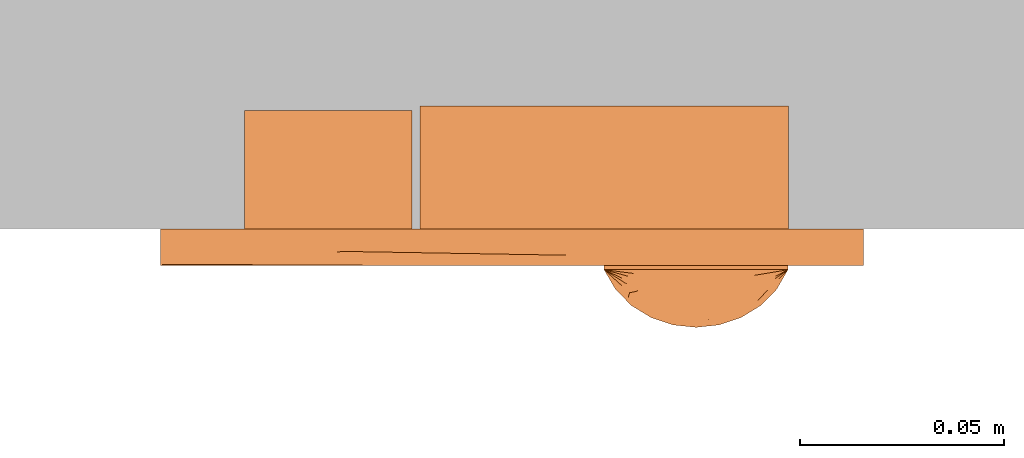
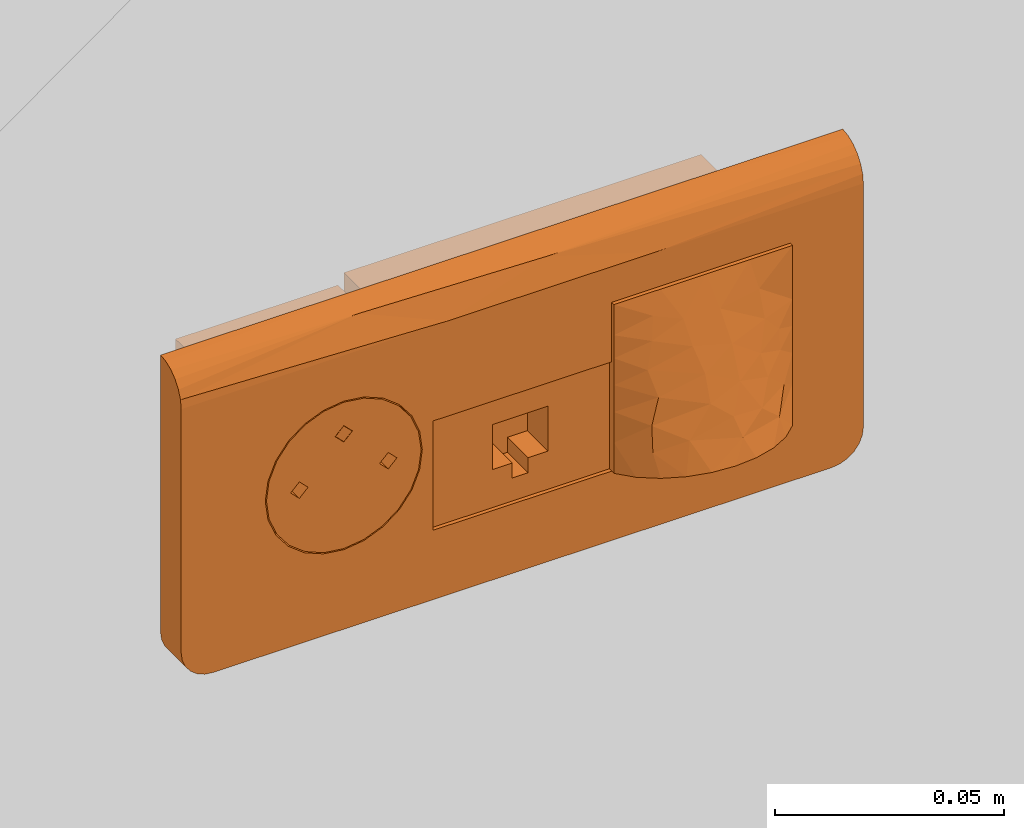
# One storey, part 159 of 197: 1 proxy.
"""IFC2X3 building model written with IfcOpenShell, lengths in metres."""

from ifc_helpers import new_model, entity, si_unit, converted_unit, direction, frame, origin, place, context, subcontext, project, spatial, faceted_brep, source, transform, mapped, material, material_list, type_object, type_shapes, element, save


model = new_model("IFC2X3")

# Units and contexts
model_context = context("Model", 3, precision=1e-05, world=origin(), true_north=direction((6.123031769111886e-17, 1.0)))
body_context = subcontext(model_context, "Body", "Model", "MODEL_VIEW")
ifc_project = project(units=[si_unit("LENGTHUNIT", "METRE"), converted_unit("PLANEANGLEUNIT", "DEGREE", entity("IfcPlaneAngleMeasure", 0.017453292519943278), si_unit("PLANEANGLEUNIT", "RADIAN"), dimensions=[0, 0, 0, 0, 0, 0, 0]), si_unit("AREAUNIT", "SQUARE_METRE")], contexts=[model_context])

# Site, building, storey
site_placement = place(None, origin())
site = spatial("IfcSite", under=ifc_project, at=site_placement, Name="Default", CompositionType="ELEMENT")
building_placement = place(site_placement, origin())
building = spatial("IfcBuilding", under=site, at=building_placement, CompositionType="ELEMENT")
storey_placement = place(building_placement, origin())
storey = spatial("IfcBuildingStorey", under=building, at=storey_placement, Name="Niveau 0", CompositionType="ELEMENT", Elevation=0.0)

# Proxy
ifc_material_1 = material(Name="<Unnamed>")
ifc_material_2 = material(Name="BETCE-PCN-BLANC")
ifc_material_3 = material(Name="BETCE-ENJOLIVEUR PC-BLANC")
ifc_material_4 = material(Name="BETCE-ETIQUETTE RJ-BLEU")
ifc_material_5 = material(Name="BETCE-PCO-ROUGE")
ifc_material_list = material_list([ifc_material_1, ifc_material_2, ifc_material_3, ifc_material_4, ifc_material_5])
building_element_proxy_type = type_object("IfcBuildingElementProxyType", Name="Poste travail encastré 1x3 modules-1RJ+HDMI_USB sur sortie cable:1PCO+1RJ+1HDMI+1USB", PredefinedType="NOTDEFINED", material=ifc_material_list)
shared_shape = source(origin(), body_context, "Body", "Brep", [
    faceted_brep([(0.06772872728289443, -0.004999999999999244, 0.022499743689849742), (0.02264533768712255, -0.004999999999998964, 0.02249974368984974), (0.02264533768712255, -0.004999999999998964, -0.02249313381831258), (0.06772872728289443, -0.004999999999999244, -0.02249313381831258), (0.06772872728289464, 0.030000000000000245, 0.022499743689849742), (0.06772872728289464, 0.030000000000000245, -0.02249313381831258), (0.022645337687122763, 0.030000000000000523, -0.02249313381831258), (0.022645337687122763, 0.030000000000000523, 0.022499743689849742)], [[[0, 1, 2, 3]], [[4, 5, 6, 7]], [[3, 5, 4, 0]], [[2, 6, 5, 3]], [[1, 7, 6, 2]], [[0, 4, 7, 1]]]),
    faceted_brep([(0.049145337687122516, -0.009999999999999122, -0.022500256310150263), (0.04914533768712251, -0.004999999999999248, -0.022500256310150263), (0.06764533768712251, -0.004999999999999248, -0.022500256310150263), (0.06764533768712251, -0.009999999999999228, -0.022500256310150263), (0.041145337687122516, -0.009999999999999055, -0.022500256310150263), (0.022645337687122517, -0.009999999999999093, -0.022500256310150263), (0.022645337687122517, -0.004999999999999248, -0.022500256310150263), (0.04114533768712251, -0.004999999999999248, -0.022500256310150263), (0.06764533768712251, -0.009999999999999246, 0.022499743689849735), (0.06764533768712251, -0.004999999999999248, 0.022499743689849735), (0.022645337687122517, -0.0049999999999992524, 0.022499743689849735), (0.022645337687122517, -0.009999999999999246, 0.022499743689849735), (0.034313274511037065, -0.009999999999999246, 0.022499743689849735), (0.04598121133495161, -0.009999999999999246, 0.022499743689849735), (0.05681327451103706, -0.009999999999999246, 0.022499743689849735), (0.06764533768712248, -0.009999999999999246, 0.015338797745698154), (0.06764533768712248, -0.009999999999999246, 0.008177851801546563), (0.06764533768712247, -0.009999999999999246, 0.0010169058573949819), (0.06764533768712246, -0.009999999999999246, -0.006144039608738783), (0.06764533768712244, -0.009999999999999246, -0.014322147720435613), (0.04819005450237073, -0.022144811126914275, -0.014443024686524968), (0.05455437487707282, -0.019458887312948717, -0.010516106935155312), (0.0467015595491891, -0.020564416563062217, -0.009313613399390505), (0.03952154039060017, -0.023519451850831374, -0.019965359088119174), (0.03592283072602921, -0.02006812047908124, -0.012321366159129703), (0.034168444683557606, -0.021734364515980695, -0.020300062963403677), (0.058894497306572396, -0.013105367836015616, 0.007924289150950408), (0.047833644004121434, -0.012704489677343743, 0.014266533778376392), (0.049364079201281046, -0.015324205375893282, 0.00598729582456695), (0.02543690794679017, -0.014822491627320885, -0.021596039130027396), (0.02937225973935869, -0.01880146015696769, -0.02084998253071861), (0.02854436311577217, -0.01676929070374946, -0.01501622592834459), (0.05833274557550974, -0.011571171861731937, 0.015236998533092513), (0.05638811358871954, -0.015533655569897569, 0.0010643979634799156), (0.04976446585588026, -0.018037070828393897, -0.0025082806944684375), (0.05763136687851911, -0.01671190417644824, -0.0049409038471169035), (0.022645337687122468, -0.009999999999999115, -0.01432214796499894), (0.05952100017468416, -0.01839686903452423, -0.015177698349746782), (0.06263917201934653, -0.014987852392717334, -0.00972641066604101), (0.05612003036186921, -0.021735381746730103, -0.020299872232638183), (0.05076751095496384, -0.02351980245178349, -0.01996529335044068), (0.030870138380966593, -0.015208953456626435, -0.001982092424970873), (0.0417684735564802, -0.01905640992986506, -0.0051842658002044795), (0.041693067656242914, -0.016850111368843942, 0.0015118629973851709), (0.045144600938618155, -0.024117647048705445, -0.019853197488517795), (0.06485252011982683, -0.014824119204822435, -0.021595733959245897), (0.060916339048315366, -0.018803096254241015, -0.020849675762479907), (0.028905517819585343, -0.015643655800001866, -0.008621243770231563), (0.06256358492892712, -0.013536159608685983, -0.0014496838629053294), (0.022645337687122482, -0.009999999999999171, 0.001016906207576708), (0.022645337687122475, -0.009999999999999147, -0.006144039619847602), (0.031813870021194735, -0.011168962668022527, 0.01699042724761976), (0.03874458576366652, -0.012424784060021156, 0.014570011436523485), (0.03991048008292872, -0.014560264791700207, 0.00807557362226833), (0.06267579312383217, -0.012633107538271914, 0.003650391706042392), (0.030935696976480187, -0.012267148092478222, 0.01124974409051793), (0.0226453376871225, -0.009999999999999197, 0.008177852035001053), (0.029306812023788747, -0.013152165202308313, 0.004597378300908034), (0.022645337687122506, -0.009999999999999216, 0.014321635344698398), (0.0491453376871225, -0.004999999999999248, -0.015000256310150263), (0.04114533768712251, -0.004999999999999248, -0.015000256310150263), (0.044110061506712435, -0.01786370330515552, -0.015000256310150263), (0.04314533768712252, -0.017464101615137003, -0.015000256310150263), (0.04231691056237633, -0.01682842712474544, -0.015000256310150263), (0.04168123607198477, -0.01599999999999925, -0.015000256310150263), (0.04128163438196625, -0.015035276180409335, -0.015000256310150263), (0.041145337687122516, -0.013999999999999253, -0.015000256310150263), (0.049145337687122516, -0.013999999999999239, -0.015000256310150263), (0.0490090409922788, -0.015035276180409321, -0.015000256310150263), (0.04860943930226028, -0.01599999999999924, -0.015000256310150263), (0.04797376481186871, -0.01682842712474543, -0.015000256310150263), (0.04714533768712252, -0.017464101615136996, -0.015000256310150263), (0.046180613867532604, -0.017863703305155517, -0.015000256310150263), (0.04514533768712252, -0.017999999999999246, -0.015000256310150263), (0.04114533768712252, -0.013999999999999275, -0.01914530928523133), (0.04114533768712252, -0.013999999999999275, -0.020447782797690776), (0.041145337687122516, -0.013999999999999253, -0.021750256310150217), (0.049145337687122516, -0.013999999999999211, -0.021750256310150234), (0.049145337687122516, -0.013999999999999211, -0.020447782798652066), (0.049145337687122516, -0.013999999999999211, -0.0191453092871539), (0.04813938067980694, -0.0166524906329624, -0.021252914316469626), (0.04902910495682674, -0.014957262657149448, -0.021570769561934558), (0.04868716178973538, -0.01585889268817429, -0.021401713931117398), (0.046563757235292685, -0.017740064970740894, -0.021048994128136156), (0.04741759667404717, -0.017291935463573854, -0.021133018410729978), (0.04562748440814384, -0.017970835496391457, -0.021005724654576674), (0.04215129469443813, -0.01665249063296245, -0.021252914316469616), (0.04126157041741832, -0.014957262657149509, -0.021570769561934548), (0.042873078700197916, -0.017291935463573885, -0.02113301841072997), (0.0437269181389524, -0.017740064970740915, -0.021048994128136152), (0.04466319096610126, -0.017970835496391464, -0.021005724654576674), (0.0416035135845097, -0.015858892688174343, -0.021401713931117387)], [[[0, 1, 2, 3]], [[4, 5, 6, 7]], [[8, 9, 10, 11, 12, 13, 14]], [[9, 8, 15, 16, 17, 18, 19, 3, 2]], [[20, 21, 22]], [[23, 24, 25]], [[26, 27, 28]], [[29, 30, 31]], [[14, 27, 32]], [[33, 34, 35]], [[36, 29, 31]], [[30, 25, 31]], [[36, 5, 29]], [[21, 37, 38]], [[24, 23, 20]], [[39, 20, 40]], [[20, 37, 21]], [[39, 37, 20]], [[41, 42, 43]], [[40, 20, 44]], [[37, 19, 38]], [[19, 45, 3]], [[39, 46, 37]], [[46, 45, 37]], [[44, 20, 23]], [[31, 24, 47]], [[42, 24, 22]], [[31, 47, 36]], [[19, 37, 45]], [[34, 33, 28]], [[33, 35, 48]], [[49, 50, 41]], [[48, 35, 38]], [[51, 52, 12]], [[28, 43, 34]], [[28, 27, 53]], [[21, 38, 35]], [[18, 38, 19]], [[34, 22, 21]], [[54, 48, 17]], [[35, 34, 21]], [[38, 18, 48]], [[42, 34, 43]], [[42, 47, 24]], [[28, 53, 43]], [[55, 56, 57]], [[56, 49, 57]], [[12, 11, 51]], [[26, 28, 33]], [[16, 15, 8, 32]], [[54, 17, 16]], [[41, 43, 57]], [[13, 52, 27]], [[26, 16, 32]], [[14, 13, 27]], [[55, 53, 52]], [[56, 55, 58]], [[27, 52, 53]], [[57, 43, 53]], [[55, 57, 53]], [[57, 49, 41]], [[20, 22, 24]], [[42, 22, 34]], [[55, 52, 51]], [[12, 52, 13]], [[26, 33, 54]], [[17, 48, 18]], [[48, 54, 33]], [[26, 54, 16]], [[51, 58, 55]], [[58, 51, 11]], [[50, 36, 47]], [[24, 31, 25]], [[47, 41, 50]], [[41, 47, 42]], [[26, 32, 27]], [[14, 32, 8]], [[5, 36, 50, 49, 56, 58, 11, 10, 6]], [[2, 1, 59, 60, 7, 6, 10, 9]], [[61, 62, 63, 64, 65, 66, 60, 59, 67, 68, 69, 70, 71, 72, 73]], [[60, 66, 74, 75, 76, 4, 7]], [[67, 59, 1, 0, 77, 78, 79]], [[78, 80, 79]], [[77, 81, 78]], [[78, 82, 80]], [[82, 78, 81]], [[79, 83, 72]], [[79, 84, 83]], [[79, 80, 84]], [[69, 68, 79]], [[67, 79, 68]], [[72, 85, 73]], [[71, 79, 72]], [[79, 71, 70]], [[69, 79, 70]], [[85, 72, 83]], [[74, 86, 75]], [[87, 76, 75]], [[88, 74, 89]], [[90, 89, 61]], [[66, 65, 74]], [[75, 86, 91]], [[91, 87, 75]], [[86, 74, 88]], [[74, 61, 89]], [[61, 73, 90]], [[74, 64, 63]], [[63, 62, 74]], [[61, 74, 62]], [[74, 65, 64]], [[90, 73, 85]], [[5, 4, 76, 87, 91, 86, 88, 89, 90, 85, 83, 84, 80, 82, 81, 77, 0, 3, 45, 46, 39, 40, 44, 23, 25, 30, 29]]]),
    faceted_brep([(0.022645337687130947, -0.007993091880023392, 0.022499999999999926), (-0.022354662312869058, -0.00799309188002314, 0.022499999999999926), (-0.022354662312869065, -0.00799309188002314, -0.022500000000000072), (0.022645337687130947, -0.007993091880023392, -0.022500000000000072), (-0.006854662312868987, -0.007993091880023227, -0.0003655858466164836), (0.0, -0.007993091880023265, -0.0003655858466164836), (0.007145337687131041, -0.007993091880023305, -0.0003655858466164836), (0.007145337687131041, -0.007993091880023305, -0.01236558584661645), (0.0021453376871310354, -0.007993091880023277, -0.01236558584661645), (0.0021453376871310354, -0.007993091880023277, -0.016365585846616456), (-0.001854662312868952, -0.007993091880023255, -0.016365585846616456), (-0.001854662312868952, -0.007993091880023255, -0.012365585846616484), (-0.006854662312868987, -0.007993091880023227, -0.012365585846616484), (0.02264533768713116, 0.0300069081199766, 0.022499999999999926), (0.02264533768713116, 0.0300069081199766, -0.022500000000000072), (-0.022354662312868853, 0.03000690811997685, -0.022500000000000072), (-0.022354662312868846, 0.03000690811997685, 0.022499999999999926), (-0.0068546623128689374, 0.001000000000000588, -0.0003655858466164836), (-0.0068546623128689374, 0.001000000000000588, -0.012365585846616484), (-0.001854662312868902, 0.0010000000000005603, -0.012365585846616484), (-0.001854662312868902, 0.0010000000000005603, -0.016365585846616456), (0.0021453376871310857, 0.001000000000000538, -0.016365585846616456), (0.0021453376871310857, 0.001000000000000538, -0.01236558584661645), (0.007145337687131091, 0.0010000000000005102, -0.01236558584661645), (0.007145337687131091, 0.0010000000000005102, -0.0003655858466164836), (0.0, 0.00100000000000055, -0.0003655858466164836)], [[[0, 1, 2, 3], [4, 5, 6, 7, 8, 9, 10, 11, 12]], [[13, 14, 15, 16]], [[1, 0, 13, 16]], [[2, 1, 16, 15]], [[3, 2, 15, 14]], [[0, 3, 14, 13]], [[17, 18, 19, 20, 21, 22, 23, 24, 25]], [[17, 25, 5, 4]], [[25, 24, 6, 5]], [[24, 23, 7, 6]], [[23, 22, 8, 7]], [[22, 21, 9, 8]], [[21, 20, 10, 9]], [[20, 19, 11, 10]], [[19, 18, 12, 11]], [[18, 17, 4, 12]]]),
    faceted_brep([(0.022645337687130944, -0.008993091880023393, 0.022499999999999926), (-0.022354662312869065, -0.008993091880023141, 0.022499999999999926), (-0.02235466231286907, -0.008993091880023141, 0.006634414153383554), (0.022645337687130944, -0.008993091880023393, 0.006634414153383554), (0.022645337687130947, -0.007993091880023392, 0.022499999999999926), (0.022645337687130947, -0.007993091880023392, 0.006634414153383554), (-0.022354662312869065, -0.00799309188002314, 0.006634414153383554), (-0.022354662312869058, -0.00799309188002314, 0.022499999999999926)], [[[0, 1, 2, 3]], [[4, 5, 6, 7]], [[1, 0, 4, 7]], [[2, 1, 7, 6]], [[3, 2, 6, 5]], [[0, 3, 5, 4]]]),
    faceted_brep([(0.08610456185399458, -0.008993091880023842, -0.033000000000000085), (0.08610456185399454, -0.008993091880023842, 0.03200000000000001), (0.06760456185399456, -0.008993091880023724, -0.02250000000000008), (0.0781045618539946, -0.008993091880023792, -0.04099999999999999), (0.08017511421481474, -0.008993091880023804, -0.04072740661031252), (0.08210456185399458, -0.008993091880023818, -0.0399282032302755), (0.08376141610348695, -0.008993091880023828, -0.038656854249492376), (0.08503276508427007, -0.008993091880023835, -0.03700000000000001), (0.08583196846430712, -0.00899309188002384, -0.03507055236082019), (0.06760456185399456, -0.008993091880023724, 0.022499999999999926), (-0.0673954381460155, -0.008993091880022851, 0.022499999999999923), (0.033728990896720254, -0.008993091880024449, 0.031999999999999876), (-0.018646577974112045, -0.008993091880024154, 0.03199999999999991), (-0.08589543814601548, -0.008993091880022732, 0.03200000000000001), (-0.0673954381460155, -0.008993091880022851, -0.02250000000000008), (-0.08589543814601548, -0.008993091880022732, -0.03299999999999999), (-0.07789543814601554, -0.008993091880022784, -0.04099999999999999), (-0.07996599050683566, -0.00899309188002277, -0.040727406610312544), (-0.0818954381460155, -0.008993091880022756, -0.0399282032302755), (-0.08355229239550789, -0.008993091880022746, -0.03865685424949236), (-0.08482364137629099, -0.008993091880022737, -0.036999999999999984), (-0.08562284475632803, -0.008993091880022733, -0.03507055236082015), (-0.08589543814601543, 0.0, -0.03300000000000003), (-0.08589543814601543, 0.0, 0.04099999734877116), (-0.06739543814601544, 0.0, 0.022499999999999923), (-0.06739543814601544, 0.0, -0.02250000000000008), (-0.07789543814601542, 0.0, -0.04099999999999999), (-0.0799659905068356, 0.0, -0.040727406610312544), (-0.08189543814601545, 0.0, -0.0399282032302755), (-0.08355229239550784, 0.0, -0.03865685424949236), (-0.08562284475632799, 0.0, -0.03507055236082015), (-0.018646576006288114, 0.0, 0.04099999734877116), (0.03372899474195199, 0.0, 0.04099999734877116), (0.08610456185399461, 0.0, 0.04100000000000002), (0.06760456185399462, 0.0, 0.022499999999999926), (0.08610456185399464, 0.0, -0.033000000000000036), (0.06760456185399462, 0.0, -0.02250000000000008), (0.07810456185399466, 0.0, -0.04099999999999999), (0.0801751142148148, 0.0, -0.04072740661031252), (0.08210456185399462, 0.0, -0.0399282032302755), (0.083761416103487, 0.0, -0.038656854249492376), (0.08583196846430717, 0.0, -0.03507055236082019), (0.08503276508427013, 0.0, -0.03700000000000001), (-0.08482364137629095, 0.0, -0.036999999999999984), (0.0861045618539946, -0.002328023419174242, 0.040691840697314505), (0.0861045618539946, -0.004497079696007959, 0.03979192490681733), (0.08610456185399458, -0.006359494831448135, 0.03836151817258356), (0.08610456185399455, -0.007788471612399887, 0.036498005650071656), (0.08610456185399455, -0.008686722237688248, 0.03432825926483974), (-0.08589543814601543, -0.002328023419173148, 0.0406918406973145), (-0.08589543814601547, -0.008686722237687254, 0.03432825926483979), (-0.08589543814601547, -0.007788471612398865, 0.036498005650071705), (-0.08589543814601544, -0.006359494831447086, 0.0383615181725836), (-0.08589543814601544, -0.004497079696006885, 0.03979192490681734), (0.007541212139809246, -0.006359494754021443, 0.03836151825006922), (-0.03917711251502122, -0.005559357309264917, 0.03907224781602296)], [[[0, 1, 2]], [[3, 0, 2]], [[0, 3, 4]], [[0, 4, 5]], [[5, 6, 0]], [[7, 0, 6]], [[8, 0, 7]], [[2, 1, 9]], [[1, 10, 9]], [[10, 1, 11]], [[10, 11, 12]], [[10, 12, 13]], [[14, 10, 13]], [[15, 14, 13]], [[16, 14, 15]], [[16, 15, 17]], [[18, 17, 15]], [[15, 19, 18]], [[19, 15, 20]], [[20, 15, 21]], [[2, 16, 3]], [[14, 16, 2]], [[22, 23, 24]], [[25, 22, 24]], [[26, 22, 25]], [[22, 26, 27]], [[22, 27, 28]], [[28, 29, 22]], [[30, 22, 29]], [[24, 23, 31]], [[24, 31, 32]], [[24, 32, 33]], [[34, 24, 33]], [[35, 34, 33]], [[36, 34, 35]], [[37, 36, 35]], [[37, 35, 38]], [[39, 38, 35]], [[35, 40, 39]], [[40, 35, 41]], [[40, 41, 42]], [[36, 37, 26]], [[25, 36, 26]], [[43, 30, 29]], [[1, 0, 35, 33, 44, 45, 46, 47, 48]], [[41, 35, 0, 8]], [[42, 41, 8, 7]], [[40, 42, 7, 6]], [[39, 40, 6, 5]], [[38, 39, 5, 4]], [[37, 38, 4, 3]], [[26, 37, 3, 16]], [[27, 26, 16, 17]], [[28, 27, 17, 18]], [[29, 28, 18, 19]], [[43, 29, 19, 20]], [[30, 43, 20, 21]], [[22, 30, 21, 15]], [[49, 23, 22, 15, 13, 50, 51, 52, 53]], [[25, 24, 10, 14]], [[36, 25, 14, 2]], [[34, 36, 2, 9]], [[24, 34, 9, 10]], [[32, 54, 45]], [[50, 13, 12]], [[11, 1, 48]], [[47, 11, 48]], [[54, 11, 47]], [[54, 32, 31]], [[55, 52, 51]], [[54, 31, 55]], [[12, 54, 55]], [[55, 31, 49]], [[44, 32, 45]], [[54, 47, 46]], [[44, 33, 32]], [[53, 55, 49]], [[31, 23, 49]], [[55, 50, 12]], [[12, 11, 54]], [[55, 51, 50]], [[55, 53, 52]], [[54, 46, 45]]]),
    faceted_brep([(-0.06539543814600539, 0.0, 0.020499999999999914), (-0.06539543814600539, 0.0, -0.02050000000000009), (-0.02439543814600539, 0.0, -0.02050000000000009), (-0.02439543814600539, 0.0, 0.020499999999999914), (-0.06539543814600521, 0.029006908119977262, 0.020499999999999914), (-0.024395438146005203, 0.029006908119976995, 0.020499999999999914), (-0.024395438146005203, 0.029006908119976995, -0.02050000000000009), (-0.06539543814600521, 0.029006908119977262, -0.02050000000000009)], [[[0, 1, 2, 3]], [[4, 5, 6, 7]], [[1, 0, 4, 7]], [[2, 1, 7, 6]], [[3, 2, 6, 5]], [[0, 3, 5, 4]]]),
    faceted_brep([(-0.06739543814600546, -0.008993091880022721, 0.022499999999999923), (-0.05479543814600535, -0.008993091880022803, 0.01714730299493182), (-0.05002005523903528, -0.008993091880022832, 0.019125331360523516), (-0.05889615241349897, -0.008993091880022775, 0.014000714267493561), (-0.04489543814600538, -0.008993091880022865, 0.019799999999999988), (-0.06204274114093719, -0.008993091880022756, 0.00989999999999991), (-0.06402076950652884, -0.008993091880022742, 0.005124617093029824), (-0.06469543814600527, -0.008993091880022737, 0.0), (-0.06739543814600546, -0.008993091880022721, -0.022500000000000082), (-0.022395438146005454, -0.008993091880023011, 0.022499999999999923), (-0.06402076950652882, -0.008993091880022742, -0.005124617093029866), (-0.062042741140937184, -0.008993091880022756, -0.009899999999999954), (-0.05889615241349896, -0.008993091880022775, -0.014000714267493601), (-0.054795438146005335, -0.008993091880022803, -0.01714730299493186), (-0.050020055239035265, -0.008993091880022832, -0.01912533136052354), (-0.044895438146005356, -0.008993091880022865, -0.019800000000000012), (-0.022395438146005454, -0.008993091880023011, -0.02250000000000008), (-0.03977082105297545, -0.0089930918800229, -0.01912533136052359), (-0.03499543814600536, -0.00899309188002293, -0.01714730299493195), (-0.0308947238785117, -0.008993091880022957, -0.014000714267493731), (-0.02774813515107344, -0.008993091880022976, -0.009900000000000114), (-0.025770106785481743, -0.008993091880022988, -0.005124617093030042), (-0.025095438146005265, -0.008993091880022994, 0.0), (-0.03977082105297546, -0.0089930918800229, 0.019125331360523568), (-0.03499543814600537, -0.00899309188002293, 0.01714730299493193), (-0.030894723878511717, -0.008993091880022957, 0.014000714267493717), (-0.027748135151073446, -0.008993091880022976, 0.009900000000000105), (-0.025770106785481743, -0.008993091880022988, 0.005124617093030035), (-0.0673954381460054, 0.0, -0.022500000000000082), (-0.05479543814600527, 0.0, -0.01714730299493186), (-0.0500200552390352, 0.0, -0.01912533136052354), (-0.058896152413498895, 0.0, -0.014000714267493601), (-0.0448954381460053, 0.0, -0.019800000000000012), (-0.06204274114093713, 0.0, -0.009899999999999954), (-0.06402076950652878, 0.0, -0.005124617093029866), (-0.0646954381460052, 0.0, 0.0), (-0.0673954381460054, 0.0, 0.022499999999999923), (-0.022395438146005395, 0.0, -0.022500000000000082), (-0.06402076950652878, 0.0, 0.005124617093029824), (-0.062042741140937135, 0.0, 0.00989999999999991), (-0.05889615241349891, 0.0, 0.014000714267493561), (-0.05479543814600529, 0.0, 0.01714730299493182), (-0.05002005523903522, 0.0, 0.019125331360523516), (-0.044895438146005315, 0.0, 0.019799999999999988), (-0.022395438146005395, 0.0, 0.022499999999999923), (-0.03977082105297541, 0.0, 0.019125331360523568), (-0.03499543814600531, 0.0, 0.01714730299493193), (-0.030894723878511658, 0.0, 0.014000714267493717), (-0.027748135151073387, 0.0, 0.009900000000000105), (-0.025770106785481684, 0.0, 0.005124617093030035), (-0.025095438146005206, 0.0, 0.0), (-0.039770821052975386, 0.0, -0.01912533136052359), (-0.0349954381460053, 0.0, -0.01714730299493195), (-0.03089472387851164, 0.0, -0.014000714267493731), (-0.02774813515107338, 0.0, -0.009900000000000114), (-0.025770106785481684, 0.0, -0.005124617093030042)], [[[0, 1, 2]], [[1, 0, 3]], [[0, 2, 4]], [[5, 3, 0]], [[6, 5, 0]], [[7, 6, 0]], [[0, 8, 7]], [[4, 9, 0]], [[10, 7, 8]], [[11, 10, 8]], [[12, 11, 8]], [[8, 13, 12]], [[13, 8, 14]], [[15, 14, 8]], [[8, 16, 15]], [[17, 15, 16]], [[18, 17, 16]], [[16, 19, 18]], [[19, 16, 20]], [[21, 20, 16]], [[22, 21, 16]], [[22, 16, 9]], [[9, 4, 23]], [[9, 23, 24]], [[24, 25, 9]], [[25, 26, 9]], [[26, 27, 9]], [[9, 27, 22]], [[28, 29, 30]], [[29, 28, 31]], [[28, 30, 32]], [[33, 31, 28]], [[34, 33, 28]], [[35, 34, 28]], [[28, 36, 35]], [[32, 37, 28]], [[38, 35, 36]], [[39, 38, 36]], [[40, 39, 36]], [[36, 41, 40]], [[41, 36, 42]], [[43, 42, 36]], [[36, 44, 43]], [[45, 43, 44]], [[46, 45, 44]], [[44, 47, 46]], [[47, 44, 48]], [[49, 48, 44]], [[50, 49, 44]], [[50, 44, 37]], [[37, 32, 51]], [[37, 51, 52]], [[52, 53, 37]], [[53, 54, 37]], [[54, 55, 37]], [[37, 55, 50]], [[36, 28, 8, 0]], [[44, 36, 0, 9]], [[37, 44, 9, 16]], [[28, 37, 16, 8]], [[35, 7, 10, 34]], [[34, 10, 11, 33]], [[29, 31, 12, 13]], [[12, 31, 33, 11]], [[30, 29, 13, 14]], [[30, 14, 15, 32]], [[32, 15, 17, 51]], [[51, 17, 18, 52]], [[54, 53, 19, 20]], [[19, 53, 52, 18]], [[55, 54, 20, 21]], [[55, 21, 22, 50]], [[50, 22, 27, 49]], [[49, 27, 26, 48]], [[46, 47, 25, 24]], [[25, 47, 48, 26]], [[45, 46, 24, 23]], [[45, 23, 4, 43]], [[43, 4, 2, 42]], [[42, 2, 1, 41]], [[39, 40, 3, 5]], [[3, 40, 41, 1]], [[38, 39, 5, 6]], [[38, 6, 7, 35]]]),
    faceted_brep([(-0.05609543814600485, 0.0, -0.002200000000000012), (-0.05464543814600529, 0.0, -0.016887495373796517), (-0.05868402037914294, 0.0, -0.013788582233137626), (-0.04994240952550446, 0.0, -0.018835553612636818), (-0.0617829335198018, 0.0, -0.009749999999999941), (-0.053895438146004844, 0.0, 0.0), (-0.06373099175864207, 0.0, -0.005046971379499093), (-0.05829543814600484, 0.0, 0.0), (-0.044895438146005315, 0.0, -0.019500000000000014), (-0.03589543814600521, 0.0, 0.0), (-0.04489543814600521, 0.0, 0.008899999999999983), (-0.047095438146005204, 0.0, 0.011099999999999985), (-0.05609543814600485, 0.0, 0.0021999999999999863), (-0.06373099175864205, 0.0, 0.005046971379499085), (-0.0617829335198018, 0.0, 0.009749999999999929), (-0.058684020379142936, 0.0, 0.013788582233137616), (-0.054645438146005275, 0.0, 0.016887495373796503), (-0.049942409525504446, 0.0, 0.0188355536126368), (-0.04489543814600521, 0.0, 0.013299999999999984), (-0.04269543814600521, 0.0, 0.011099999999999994), (-0.03984846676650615, 0.0, 0.018835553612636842), (-0.03514543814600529, 0.0, 0.016887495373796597), (-0.031106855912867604, 0.0, 0.013788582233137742), (-0.03369543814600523, 0.0, 0.0021999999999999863), (-0.028007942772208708, 0.0, 0.009750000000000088), (-0.026059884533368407, 0.0, 0.005046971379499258), (-0.031495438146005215, 0.0, 0.0), (-0.03984846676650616, 0.0, -0.018835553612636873), (-0.03369543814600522, 0.0, -0.002200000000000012), (-0.035145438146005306, 0.0, -0.016887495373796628), (-0.031106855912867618, 0.0, -0.013788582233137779), (-0.028007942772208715, 0.0, -0.009750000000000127), (-0.026059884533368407, 0.0, -0.0050469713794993), (-0.025395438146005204, 0.0, 0.0), (-0.06439543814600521, 0.0, 0.0), (-0.0448954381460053, 0.0, 0.019499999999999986), (-0.05464543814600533, -0.008993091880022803, 0.016887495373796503), (-0.05868402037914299, -0.008993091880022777, 0.013788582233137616), (-0.04709543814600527, -0.008993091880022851, 0.011099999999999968), (-0.0499424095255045, -0.008993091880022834, 0.0188355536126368), (-0.05609543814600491, -0.008993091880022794, 0.0021999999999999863), (-0.061782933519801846, -0.008993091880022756, 0.009749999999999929), (-0.06373099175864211, -0.008993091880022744, 0.005046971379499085), (-0.0582954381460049, -0.00899309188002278, 0.0), (-0.06439543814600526, -0.00899309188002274, 0.0), (-0.06373099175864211, -0.008993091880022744, -0.005046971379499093), (-0.05609543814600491, -0.008993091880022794, -0.002200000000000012), (-0.061782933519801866, -0.008993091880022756, -0.009749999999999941), (-0.058684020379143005, -0.008993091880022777, -0.013788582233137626), (-0.05464543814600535, -0.008993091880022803, -0.016887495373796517), (-0.04994240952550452, -0.008993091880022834, -0.018835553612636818), (-0.0538954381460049, -0.008993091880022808, 0.0), (-0.04489543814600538, -0.008993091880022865, -0.019500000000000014), (-0.03589543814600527, -0.008993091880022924, 0.0), (-0.039848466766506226, -0.008993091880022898, -0.018835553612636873), (-0.03369543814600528, -0.008993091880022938, -0.002200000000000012), (-0.03514543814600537, -0.00899309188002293, -0.016887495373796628), (-0.031106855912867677, -0.008993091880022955, -0.013788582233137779), (-0.028007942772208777, -0.008993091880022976, -0.009750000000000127), (-0.02605988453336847, -0.008993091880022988, -0.0050469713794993), (-0.03149543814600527, -0.008993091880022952, 0.0), (-0.025395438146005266, -0.008993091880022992, 0.0), (-0.02605988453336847, -0.008993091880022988, 0.005046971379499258), (-0.033695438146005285, -0.008993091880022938, 0.0021999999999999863), (-0.028007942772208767, -0.008993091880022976, 0.009750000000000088), (-0.031106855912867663, -0.008993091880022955, 0.013788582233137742), (-0.042695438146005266, -0.008993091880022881, 0.011099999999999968), (-0.035145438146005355, -0.00899309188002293, 0.016887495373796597), (-0.039848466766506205, -0.008993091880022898, 0.018835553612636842), (-0.04489543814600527, -0.008993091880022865, 0.013299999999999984), (-0.044895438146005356, -0.008993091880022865, 0.019499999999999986), (-0.04489543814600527, -0.008993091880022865, 0.008899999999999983)], [[[0, 1, 2]], [[0, 3, 1]], [[2, 4, 0]], [[0, 5, 3]], [[6, 0, 4]], [[7, 0, 6]], [[3, 5, 8]], [[8, 5, 9]], [[9, 5, 10]], [[10, 5, 11]], [[12, 11, 5]], [[13, 12, 7]], [[13, 14, 12]], [[12, 14, 15]], [[15, 11, 12]], [[15, 16, 11]], [[17, 11, 16]], [[11, 17, 18]], [[19, 9, 10]], [[18, 20, 19]], [[21, 19, 20]], [[19, 21, 22]], [[19, 22, 23]], [[9, 19, 23]], [[24, 23, 22]], [[23, 24, 25]], [[26, 23, 25]], [[27, 8, 9]], [[28, 27, 9]], [[28, 29, 27]], [[28, 30, 29]], [[28, 31, 30]], [[28, 32, 31]], [[32, 28, 26]], [[32, 26, 33]], [[33, 26, 25]], [[6, 34, 7]], [[7, 34, 13]], [[18, 17, 35]], [[20, 18, 35]], [[36, 37, 38]], [[38, 39, 36]], [[37, 40, 38]], [[40, 37, 41]], [[41, 42, 40]], [[40, 42, 43]], [[44, 43, 42]], [[44, 45, 43]], [[46, 43, 45]], [[45, 47, 46]], [[48, 46, 47]], [[46, 48, 49]], [[46, 49, 50]], [[51, 46, 50]], [[51, 50, 52]], [[52, 53, 51]], [[53, 52, 54]], [[55, 53, 54]], [[54, 56, 55]], [[56, 57, 55]], [[55, 57, 58]], [[58, 59, 55]], [[60, 55, 59]], [[59, 61, 60]], [[61, 62, 60]], [[62, 63, 60]], [[64, 63, 62]], [[64, 65, 63]], [[63, 65, 66]], [[66, 65, 67]], [[66, 67, 68]], [[66, 68, 69]], [[68, 70, 69]], [[70, 39, 69]], [[69, 39, 38]], [[53, 66, 71]], [[63, 66, 53]], [[71, 51, 53]], [[38, 51, 71]], [[38, 40, 51]], [[42, 13, 34, 44]], [[41, 14, 13, 42]], [[15, 37, 36, 16]], [[41, 37, 15, 14]], [[16, 36, 39, 17]], [[17, 39, 70, 35]], [[67, 21, 20, 68]], [[65, 22, 21, 67]], [[24, 64, 62, 25]], [[65, 64, 24, 22]], [[25, 62, 61, 33]], [[20, 35, 70, 68]], [[59, 32, 33, 61]], [[58, 31, 32, 59]], [[30, 57, 56, 29]], [[58, 57, 30, 31]], [[29, 56, 54, 27]], [[27, 54, 52, 8]], [[49, 1, 3, 50]], [[48, 2, 1, 49]], [[4, 47, 45, 6]], [[48, 47, 4, 2]], [[6, 45, 44, 34]], [[3, 8, 52, 50]], [[71, 10, 11, 38]], [[66, 19, 10, 71]], [[69, 18, 19, 66]], [[38, 11, 18, 69]], [[55, 28, 9, 53]], [[60, 26, 28, 55]], [[63, 23, 26, 60]], [[53, 9, 23, 63]], [[46, 0, 7, 43]], [[51, 5, 0, 46]], [[40, 12, 5, 51]], [[43, 7, 12, 40]]]),
    faceted_brep([(-0.04489543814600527, -0.008993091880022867, 0.008999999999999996), (-0.04279543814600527, -0.008993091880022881, 0.011099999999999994), (-0.044895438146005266, -0.008993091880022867, 0.013199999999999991), (-0.046995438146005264, -0.008993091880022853, 0.0111), (-0.0469954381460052, 0.0, 0.0111), (-0.044895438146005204, 0.0, 0.013199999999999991), (-0.042795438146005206, 0.0, 0.011099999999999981), (-0.04489543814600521, 0.0, 0.008999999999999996)], [[[0, 1, 2, 3]], [[4, 5, 6, 7]], [[3, 4, 7, 0]], [[7, 6, 1, 0]], [[1, 6, 5, 2]], [[5, 4, 3, 2]]]),
])
type_shapes(building_element_proxy_type, [shared_shape])
proxy_placement = place(storey_placement, frame((-340.33911229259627, 97.32254659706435, 0.49999999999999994)))
element("IfcBuildingElementProxy", 1, at=proxy_placement, inside=storey, type_object=building_element_proxy_type, material=ifc_material_list, Name="Poste travail encastré 1x3 modules-1RJ+HDMI_USB sur sortie cable:1PCO+1RJ+1HDMI+1USB", ObjectType="Poste travail encastré 1x3 modules-1RJ+HDMI_USB sur sortie cable:1PCO+1RJ+1HDMI+1USB", context=body_context, shape_type="MappedRepresentation", body=[
    mapped(shared_shape, transform((0.0, 0.0, 0.0), scale=1.0)),
])

save(model, "model.ifc")
